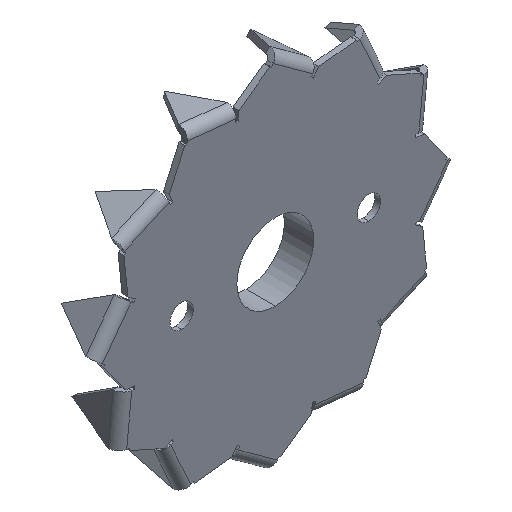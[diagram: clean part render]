
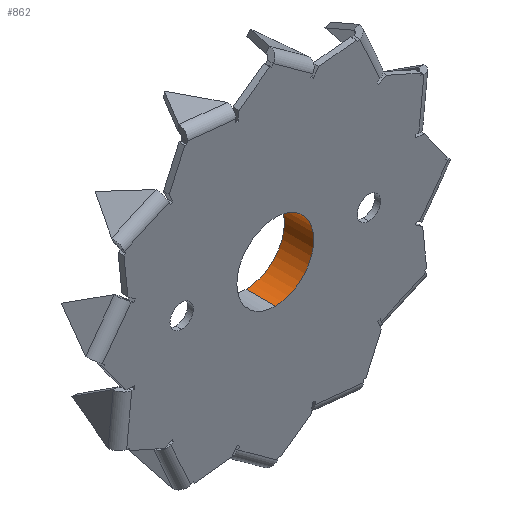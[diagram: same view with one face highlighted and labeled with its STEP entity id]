
A CAD part, isometric view. The second image highlights one B-rep face of the part: STEP entity #862.
In plain terms, the highlighted cylindrical face has radius 8.2 mm (diameter 16.4 mm), a partial arc.
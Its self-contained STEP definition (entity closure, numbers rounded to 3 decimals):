
#190 = DIRECTION ( 'NONE',  ( 0., 1., 0. ) ) ;
#201 = CARTESIAN_POINT ( 'NONE',  ( 0., -1.25, 0. ) ) ;
#299 = ORIENTED_EDGE ( 'NONE', *, *, #1261, .F. ) ;
#497 = VERTEX_POINT ( 'NONE', #1825 ) ;
#862 = ADVANCED_FACE ( 'NONE', ( #1014 ), #2277, .F. ) ;
#1014 = FACE_OUTER_BOUND ( 'NONE', #1446, .T. ) ;
#1261 = EDGE_CURVE ( 'NONE', #1773, #3452, #2531, .T. ) ;
#1291 = VECTOR ( 'NONE', #3123, 1000. ) ;
#1407 = AXIS2_PLACEMENT_3D ( 'NONE', #2489, #4520, #3292 ) ;
#1423 = CARTESIAN_POINT ( 'NONE',  ( 0., -1.25, -8.2 ) ) ;
#1446 = EDGE_LOOP ( 'NONE', ( #2956, #299, #2785, #2775 ) ) ;
#1611 = DIRECTION ( 'NONE',  ( 0., 1., 0. ) ) ;
#1773 = VERTEX_POINT ( 'NONE', #2930 ) ;
#1825 = CARTESIAN_POINT ( 'NONE',  ( 0., 5., -8.2 ) ) ;
#1925 = LINE ( 'NONE', #2295, #1291 ) ;
#2277 = CYLINDRICAL_SURFACE ( 'NONE', #2423, 8.2 ) ;
#2291 = VECTOR ( 'NONE', #4203, 1000. ) ;
#2295 = CARTESIAN_POINT ( 'NONE',  ( 0., -1.25, 8.2 ) ) ;
#2423 = AXIS2_PLACEMENT_3D ( 'NONE', #201, #190, #4558 ) ;
#2489 = CARTESIAN_POINT ( 'NONE',  ( 0., -1.25, 0. ) ) ;
#2511 = CARTESIAN_POINT ( 'NONE',  ( 0., -1.25, -8.2 ) ) ;
#2527 = AXIS2_PLACEMENT_3D ( 'NONE', #4399, #1611, #3998 ) ;
#2531 = CIRCLE ( 'NONE', #1407, 8.2 ) ;
#2649 = EDGE_CURVE ( 'NONE', #4693, #497, #3253, .T. ) ;
#2732 = CARTESIAN_POINT ( 'NONE',  ( 0., 5., 8.2 ) ) ;
#2775 = ORIENTED_EDGE ( 'NONE', *, *, #2649, .T. ) ;
#2785 = ORIENTED_EDGE ( 'NONE', *, *, #3189, .T. ) ;
#2930 = CARTESIAN_POINT ( 'NONE',  ( 0., -1.25, 8.2 ) ) ;
#2956 = ORIENTED_EDGE ( 'NONE', *, *, #3118, .F. ) ;
#2994 = LINE ( 'NONE', #1423, #2291 ) ;
#3118 = EDGE_CURVE ( 'NONE', #3452, #497, #2994, .T. ) ;
#3123 = DIRECTION ( 'NONE',  ( 0., 1., 0. ) ) ;
#3189 = EDGE_CURVE ( 'NONE', #1773, #4693, #1925, .T. ) ;
#3253 = CIRCLE ( 'NONE', #2527, 8.2 ) ;
#3292 = DIRECTION ( 'NONE',  ( 0., 0., 1. ) ) ;
#3452 = VERTEX_POINT ( 'NONE', #2511 ) ;
#3998 = DIRECTION ( 'NONE',  ( 0., 0., 1. ) ) ;
#4203 = DIRECTION ( 'NONE',  ( 0., 1., 0. ) ) ;
#4399 = CARTESIAN_POINT ( 'NONE',  ( 0., 5., 0. ) ) ;
#4520 = DIRECTION ( 'NONE',  ( 0., 1., 0. ) ) ;
#4558 = DIRECTION ( 'NONE',  ( 0., 0., 1. ) ) ;
#4693 = VERTEX_POINT ( 'NONE', #2732 ) ;
